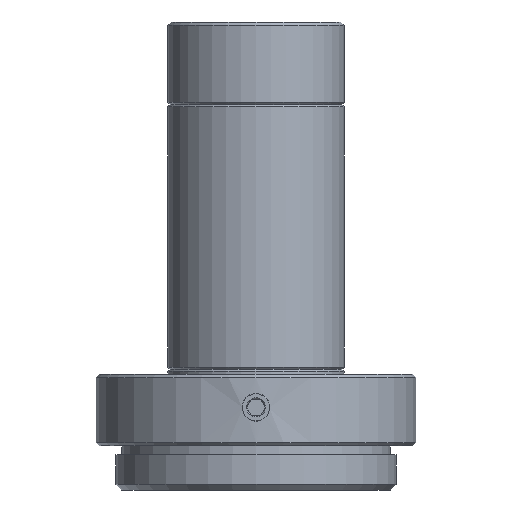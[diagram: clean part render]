
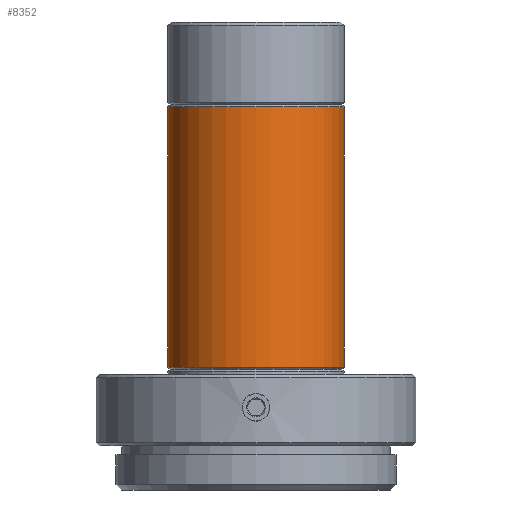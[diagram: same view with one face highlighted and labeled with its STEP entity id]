
A CAD part, front view. The second image highlights one B-rep face of the part: STEP entity #8352.
In plain terms, the highlighted cylindrical face has radius 8 mm (diameter 16 mm), a partial arc.
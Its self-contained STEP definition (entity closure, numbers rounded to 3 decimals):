
#1686 = DIRECTION ( 'NONE',  ( 1., 0., 0. ) ) ;
#1703 = AXIS2_PLACEMENT_3D ( 'NONE', #1742, #1774, #1686 ) ;
#1706 = CIRCLE ( 'NONE', #1703, 8. ) ;
#1742 = CARTESIAN_POINT ( 'NONE',  ( 0., 0., -5.3 ) ) ;
#1774 = DIRECTION ( 'NONE',  ( 0., 0., 1. ) ) ;
#2552 = AXIS2_PLACEMENT_3D ( 'NONE', #2589, #2588, #2587 ) ;
#2553 = CIRCLE ( 'NONE', #2552, 8. ) ;
#2587 = DIRECTION ( 'NONE',  ( 1., 0., 0. ) ) ;
#2588 = DIRECTION ( 'NONE',  ( 0., 0., -1. ) ) ;
#2589 = CARTESIAN_POINT ( 'NONE',  ( 0., 0., 18.3 ) ) ;
#3389 = CARTESIAN_POINT ( 'NONE',  ( -8., 0., 18.3 ) ) ;
#3420 = CARTESIAN_POINT ( 'NONE',  ( -8., 0., -1.3 ) ) ;
#3425 = VECTOR ( 'NONE', #3468, 1000. ) ;
#3426 = CARTESIAN_POINT ( 'NONE',  ( 8., 0., 18.5 ) ) ;
#3430 = DIRECTION ( 'NONE',  ( 0., 0., -1. ) ) ;
#3431 = CARTESIAN_POINT ( 'NONE',  ( 8., 0., 18.5 ) ) ;
#3433 = VECTOR ( 'NONE', #3430, 1000. ) ;
#3434 = LINE ( 'NONE', #3431, #3433 ) ;
#3468 = DIRECTION ( 'NONE',  ( 0., 0., -1. ) ) ;
#3474 = CARTESIAN_POINT ( 'NONE',  ( -8., 0., 14.3 ) ) ;
#3501 = CARTESIAN_POINT ( 'NONE',  ( 8., 0., 14.3 ) ) ;
#3502 = CARTESIAN_POINT ( 'NONE',  ( 8., 0., -1.3 ) ) ;
#3541 = CARTESIAN_POINT ( 'NONE',  ( -8., 0., 18.5 ) ) ;
#3550 = DIRECTION ( 'NONE',  ( 0., 0., -1. ) ) ;
#3554 = LINE ( 'NONE', #3541, #3559 ) ;
#3558 = CARTESIAN_POINT ( 'NONE',  ( 8., 0., -5.3 ) ) ;
#3559 = VECTOR ( 'NONE', #3550, 1000. ) ;
#3619 = LINE ( 'NONE', #3426, #3425 ) ;
#3676 = CARTESIAN_POINT ( 'NONE',  ( 8., 0., 18.3 ) ) ;
#3687 = CARTESIAN_POINT ( 'NONE',  ( -8., 0., 18.5 ) ) ;
#3688 = VECTOR ( 'NONE', #3693, 1000. ) ;
#3689 = CARTESIAN_POINT ( 'NONE',  ( -8., 0., -5.3 ) ) ;
#3693 = DIRECTION ( 'NONE',  ( 0., 0., -1. ) ) ;
#3694 = LINE ( 'NONE', #3687, #3688 ) ;
#5744 = EDGE_CURVE ( 'NONE', #5853, #5809, #3434, .T. ) ;
#5749 = VERTEX_POINT ( 'NONE', #3474 ) ;
#5750 = VERTEX_POINT ( 'NONE', #3389 ) ;
#5752 = VERTEX_POINT ( 'NONE', #3420 ) ;
#5802 = EDGE_CURVE ( 'NONE', #5752, #5863, #3554, .T. ) ;
#5809 = VERTEX_POINT ( 'NONE', #3501 ) ;
#5812 = VERTEX_POINT ( 'NONE', #3502 ) ;
#5814 = VERTEX_POINT ( 'NONE', #3558 ) ;
#5836 = EDGE_CURVE ( 'NONE', #5812, #5814, #3619, .T. ) ;
#5853 = VERTEX_POINT ( 'NONE', #3676 ) ;
#5863 = VERTEX_POINT ( 'NONE', #3689 ) ;
#5864 = EDGE_CURVE ( 'NONE', #5750, #5749, #3694, .T. ) ;
#6436 = EDGE_CURVE ( 'NONE', #5863, #5814, #1706, .T. ) ;
#6465 = EDGE_CURVE ( 'NONE', #5853, #5750, #2553, .T. ) ;
#8341 = EDGE_CURVE ( 'NONE', #5752, #5749, #11428, .T. ) ;
#8344 = ORIENTED_EDGE ( 'NONE', *, *, #5864, .T. ) ;
#8346 = EDGE_CURVE ( 'NONE', #5809, #5812, #11446, .T. ) ;
#8347 = EDGE_LOOP ( 'NONE', ( #8351, #8348, #8344, #8356, #8357, #8359, #8354, #8358 ) ) ;
#8348 = ORIENTED_EDGE ( 'NONE', *, *, #6465, .T. ) ;
#8351 = ORIENTED_EDGE ( 'NONE', *, *, #5744, .F. ) ;
#8352 = ADVANCED_FACE ( 'NONE', ( #11435 ), #11445, .T. ) ;
#8354 = ORIENTED_EDGE ( 'NONE', *, *, #5836, .F. ) ;
#8356 = ORIENTED_EDGE ( 'NONE', *, *, #8341, .F. ) ;
#8357 = ORIENTED_EDGE ( 'NONE', *, *, #5802, .T. ) ;
#8358 = ORIENTED_EDGE ( 'NONE', *, *, #8346, .F. ) ;
#8359 = ORIENTED_EDGE ( 'NONE', *, *, #6436, .T. ) ;
#11428 = LINE ( 'NONE', #11444, #11442 ) ;
#11435 = FACE_OUTER_BOUND ( 'NONE', #8347, .T. ) ;
#11436 = DIRECTION ( 'NONE',  ( 0., 0., -1. ) ) ;
#11437 = VECTOR ( 'NONE', #11436, 1000. ) ;
#11442 = VECTOR ( 'NONE', #11457, 1000. ) ;
#11443 = AXIS2_PLACEMENT_3D ( 'NONE', #11451, #11464, #11463 ) ;
#11444 = CARTESIAN_POINT ( 'NONE',  ( -8., 0., -1.5 ) ) ;
#11445 = CYLINDRICAL_SURFACE ( 'NONE', #11443, 8. ) ;
#11446 = LINE ( 'NONE', #11450, #11437 ) ;
#11450 = CARTESIAN_POINT ( 'NONE',  ( 8., 0., -1.5 ) ) ;
#11451 = CARTESIAN_POINT ( 'NONE',  ( 0., 0., 18.5 ) ) ;
#11457 = DIRECTION ( 'NONE',  ( 0., 0., 1. ) ) ;
#11463 = DIRECTION ( 'NONE',  ( -1., 0., 0. ) ) ;
#11464 = DIRECTION ( 'NONE',  ( 0., 0., -1. ) ) ;
